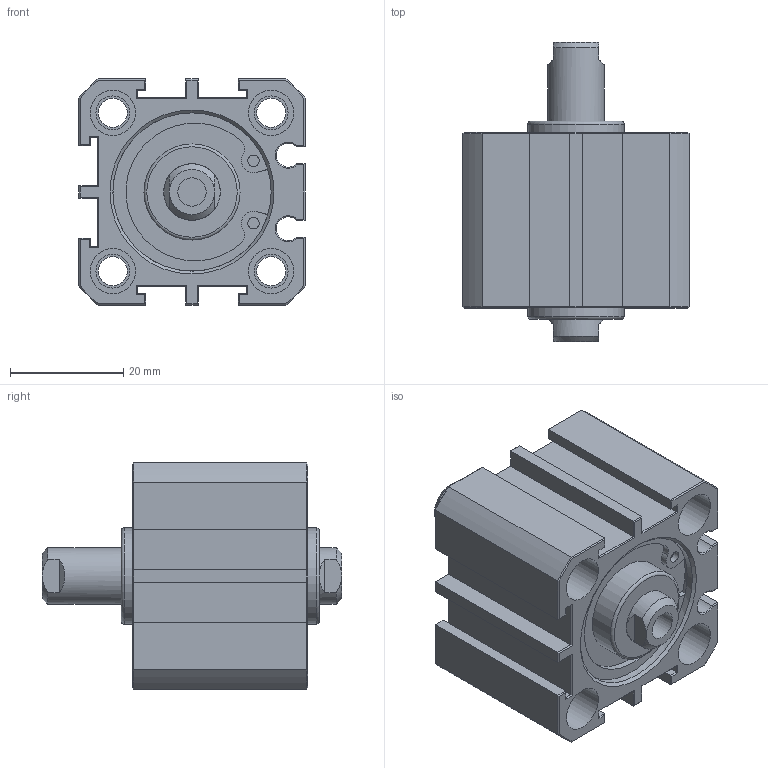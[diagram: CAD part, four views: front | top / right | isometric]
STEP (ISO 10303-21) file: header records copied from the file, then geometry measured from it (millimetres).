
FILE_DESCRIPTION(/* description */ (''),/* implementation_level */ '2;1');
FILE_NAME(/* name */ 'AJC-SW25X10N',/* time_stamp */ '2019-06-21T16:07:43+08:00',/* author */ ('JEFF HUANG'),/* organization */ ('TAIWAN AMAC CLAMP INDUSTRIAL CO., LTD.'),/* preprocessor_version */ 'ST-DEVELOPER v16.7',/* originating_system */ 'DEX',/* authorisation */ $);
FILE_SCHEMA (('AUTOMOTIVE_DESIGN {1 0 10303 214 3 1 1}'));
Length unit declared in the file: millimetre
Products named in the file (1): AJC-SW25X10N
Bounding box: 40 x 53 x 40 mm (x, y, z)
Volume: 38319.4 mm3; surface area: 14314.6 mm2
Topology: 1 solids, 1 shells, 259 faces, 565 edges, 338 vertices
Faces by surface type: plane 186, cylinder 53, cone 18, torus 2
Full cylindrical faces by diameter (mm): 2.004 x4, 5 x4, 5.1 x4, 6 x8, 8 x8, 10 x1, 17 x2, 28 x2
Entity records: 8563 total; most frequent: CARTESIAN_POINT 1214, DIRECTION 1146, ORIENTED_EDGE 1046, EDGE_CURVE 523, AXIS2_PLACEMENT_3D 395, LINE 356, VECTOR 356, EDGE_LOOP 334
